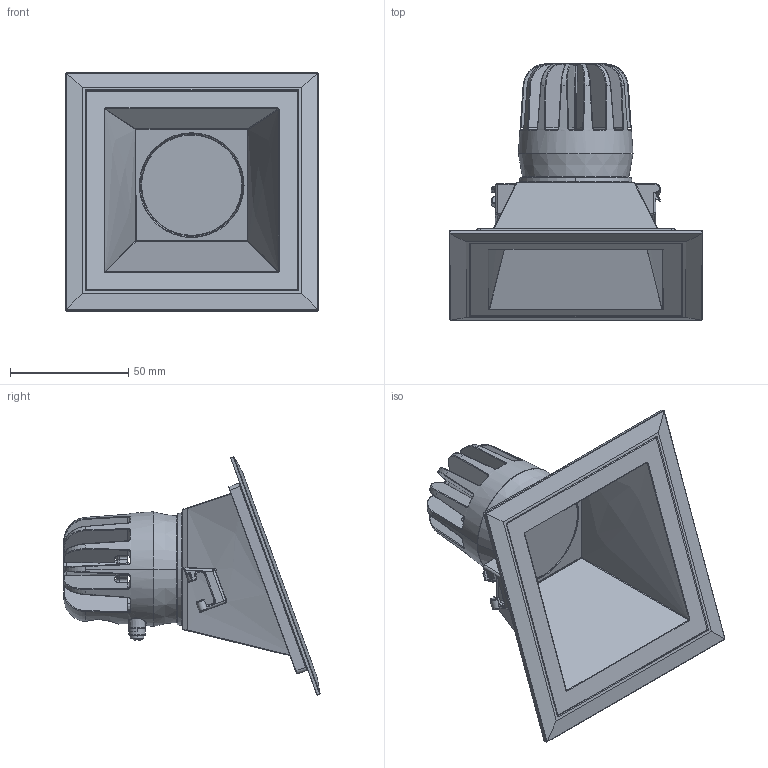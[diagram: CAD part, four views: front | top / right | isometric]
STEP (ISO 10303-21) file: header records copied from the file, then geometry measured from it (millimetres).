
FILE_DESCRIPTION((''),'2;1');
FILE_NAME('QUADRATO_80_ASIM_SW0001','2025-07-28T09:44:23',('Piccioli'),(''),'CREO PARAMETRIC BY PTC INC, 2025010','CREO PARAMETRIC BY PTC INC, 2025010','');
FILE_SCHEMA(('CONFIG_CONTROL_DESIGN'));
Products named in the file (1): QUADRATO_80_ASIM_SW0001
Bounding box: 107 x 108.51 x 100.94 mm (x, y, z)
Surface area: 64241.7 mm2 (no closed solid volume)
Topology: 0 solids, 59 shells, 541 faces, 2474 edges, 1930 vertices
Faces by surface type: plane 168, bspline 155, cylinder 125, torus 46, cone 38, sphere 9
Entity records: 49266 total; most frequent: CARTESIAN_POINT 32306, ORIENTED_EDGE 3386, DIRECTION 2724, EDGE_CURVE 2474, VERTEX_POINT 1930, B_SPLINE_CURVE_WITH_KNOTS 1111, AXIS2_PLACEMENT_3D 975, VECTOR 774
